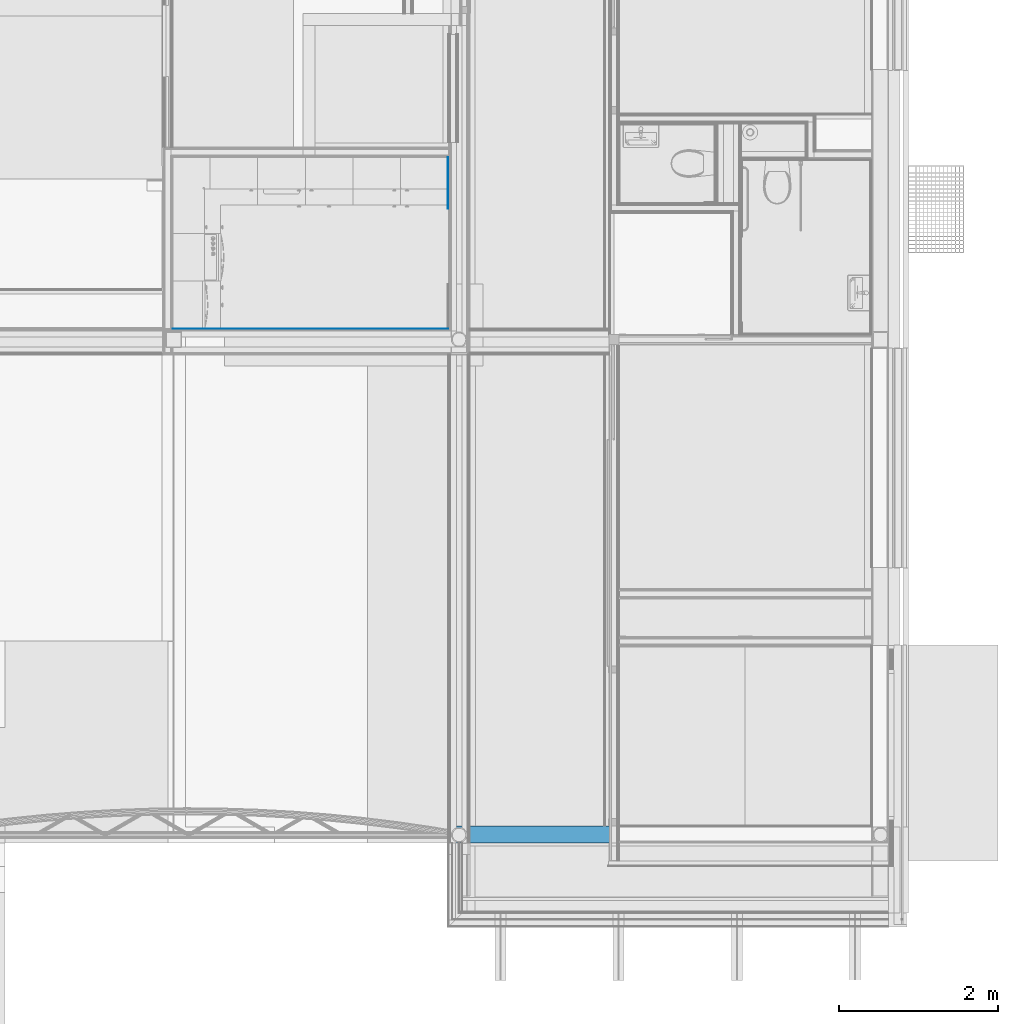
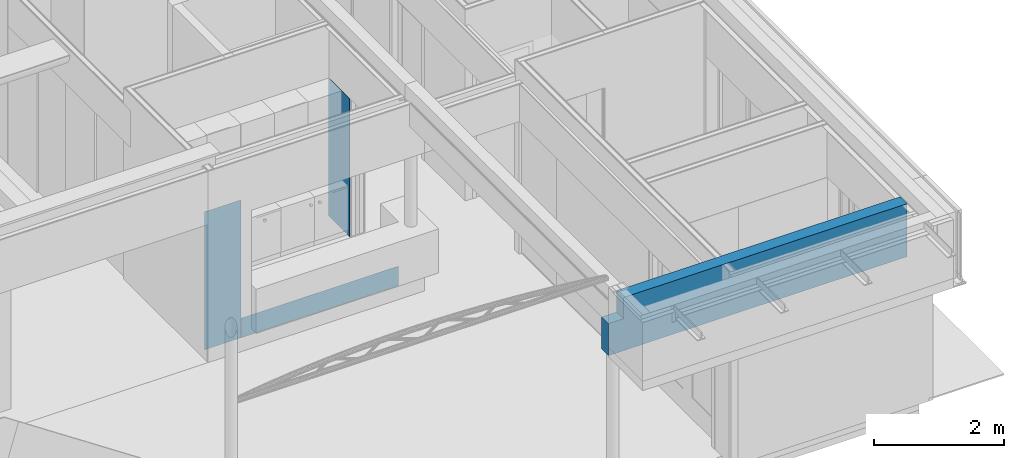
# One storey, part 24 of 165: 4 walls.
"""IFC2X3 building model written with IfcOpenShell, lengths in millimetres."""

from ifc_helpers import new_model, entity, si_unit, converted_unit, derived_unit, money_unit, direction, frame, origin_with_axes, place, context, subcontext, project, spatial, faceted_brep, material, type_object, element, save


model = new_model("IFC2X3")

# Units and contexts
model_context = context("Model", 3, precision=0.01, world=origin_with_axes(), true_north=direction((0.0, 1.0)))
body_context = subcontext(model_context, "Body", "Model", "MODEL_VIEW")
ifc_project = project(units=[si_unit("LENGTHUNIT", "METRE", prefix="MILLI"), si_unit("AREAUNIT", "SQUARE_METRE"), si_unit("VOLUMEUNIT", "CUBIC_METRE"), converted_unit("PLANEANGLEUNIT", "DEGREE", entity("IfcPlaneAngleMeasure", 0.0174532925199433), si_unit("PLANEANGLEUNIT", "RADIAN"), dimensions=[0, 0, 0, 0, 0, 0, 0]), money_unit("EUR"), converted_unit("TIMEUNIT", "Year", entity("IfcTimeMeasure", 31556926.0), si_unit("TIMEUNIT", "SECOND"), dimensions=[0, 0, 1, 0, 0, 0, 0]), si_unit("MASSUNIT", "GRAM", prefix="KILO"), si_unit("THERMODYNAMICTEMPERATUREUNIT", "DEGREE_CELSIUS"), si_unit("LUMINOUSINTENSITYUNIT", "LUMEN"), si_unit("ENERGYUNIT", "JOULE", prefix="MEGA"), derived_unit("THERMALCONDUCTANCEUNIT", [(si_unit("POWERUNIT", "WATT"), 1), (si_unit("LENGTHUNIT", "METRE"), -1), (si_unit("THERMODYNAMICTEMPERATUREUNIT", "KELVIN"), -1)]), derived_unit("SPECIFICHEATCAPACITYUNIT", [(si_unit("ENERGYUNIT", "JOULE"), 1), (si_unit("MASSUNIT", "GRAM", prefix="KILO"), -1), (si_unit("THERMODYNAMICTEMPERATUREUNIT", "KELVIN"), -1)]), derived_unit("MASSDENSITYUNIT", [(si_unit("MASSUNIT", "GRAM", prefix="KILO"), 1), (si_unit("VOLUMEUNIT", "CUBIC_METRE"), -1)])], contexts=[model_context])

# Site, building, storey
site_placement = place(None, origin_with_axes())
site = spatial("IfcSite", under=ifc_project, at=site_placement, Name="Site", CompositionType="ELEMENT")
building_placement = place(site_placement, origin_with_axes())
building = spatial("IfcBuilding", under=site, at=building_placement, Name="Naam gebouw", CompositionType="ELEMENT")
storey_placement = place(building_placement, origin_with_axes())
storey = spatial("IfcBuildingStorey", under=building, at=storey_placement, Name="Begane grond", CompositionType="ELEMENT", Elevation=0.0)

# Walls
ifc_material_1 = material(Name="ALG - LICHTE SCHEIDINGSWAND")
wall_type_1 = type_object("IfcWallType", Name="ALG - LICHTE SCHEIDINGSWAND 214", PredefinedType="NOTDEFINED")
wall_1_placement = place(storey_placement, frame((24364.99903999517, 4479.999999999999, 2600.0), z_axis=(0.0, 0.0, 1.0), x_axis=(1.0, 0.0, 0.0)))
element("IfcWall", 1, at=wall_1_placement, inside=storey, type_object=wall_type_1, material=ifc_material_1, Name="21_Wand-x", context=body_context, shape_type="Brep", body=[
    faceted_brep([(0.0, 214.0000000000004, 0.0), (0.0, 214.0000000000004, 599.9999999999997), (269.9999999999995, 214.0000000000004, 599.9999999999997), (270.0000000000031, 214.0000000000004, 999.9999952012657), (5321.000960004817, 214.0000000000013, 999.9999952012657), (5321.000960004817, 214.0000000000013, 0.0), (0.0, 0.0, 0.0), (0.0, 0.0, 599.9999999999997), (269.9999999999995, 0.0, 599.9999999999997), (270.0000000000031, 0.0, 999.9999952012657), (5321.000960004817, 0.0, 999.9999952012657), (5321.000960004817, 0.0, 0.0)], [[[0, 1, 2, 3, 4, 5]], [[0, 6, 7, 1]], [[1, 7, 8, 2]], [[2, 8, 9, 3]], [[10, 4, 3, 9]], [[4, 10, 11, 5]], [[11, 6, 0, 5]], [[10, 9, 8, 7, 6, 11]]]),
])
ifc_material_2 = material(Name="ALG - ALGEMEEN")
wall_type_2 = type_object("IfcWallType", Name="ALG - ALGEMEEN 5", PredefinedType="NOTDEFINED")
wall_2_placement = place(storey_placement, frame((24364.99907625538, 13104.99770206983, 2.0), z_axis=(0.0, 0.0, 1.0), x_axis=(0.0, -1.0, 0.0)))
element("IfcWall", 2, at=wall_2_placement, inside=storey, type_object=wall_type_2, material=ifc_material_2, Name="21_Wand-x", context=body_context, shape_type="Brep", body=[
    faceted_brep([(0.0, -4.999999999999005, 2598.0), (650.0000000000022, -4.999999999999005, 2598.0), (650.0000000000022, 0.0, 2598.0), (0.0, 0.0, 2598.0), (0.0, -4.999999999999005, 0.0), (650.0000000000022, -4.999999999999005, 0.0), (650.0000000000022, 0.0, 0.0), (0.0, 0.0, 0.0)], [[[0, 1, 2, 3]], [[4, 5, 1, 0]], [[2, 1, 5, 6]], [[3, 2, 6, 7]], [[4, 0, 3, 7]], [[7, 6, 5, 4]]]),
])
wall_type_3 = type_object("IfcWallType", Name="ALG - ALGEMEEN 1", PredefinedType="NOTDEFINED")
wall_3_placement = place(storey_placement, frame((21550.0016743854, 10945.00058782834, 0.0), z_axis=(0.0, 0.0, 1.0), x_axis=(0.9999999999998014, -6.302871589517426e-07, 0.0)))
element("IfcWall", 3, at=wall_3_placement, inside=storey, type_object=wall_type_3, material=ifc_material_2, Name="21_Wand-x", context=body_context, shape_type="Brep", body=[
    faceted_brep([(2814.997401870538, 0.9999999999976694, 0.0), (0.0, 0.9999999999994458, 0.0), (-6.314024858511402e-07, 0.9999999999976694, 370.0), (2809.997401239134, 1.001771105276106, 370.0), (2809.997401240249, 0.9999999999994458, 2.000000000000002), (2814.997401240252, 0.9999999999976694, 2.000000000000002), (2814.997401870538, 0.0, 0.0), (0.0, 0.0, 0.0), (-1.115552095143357e-09, 0.0, 370.0), (2809.997401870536, 0.0, 370.0), (2809.997401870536, 0.0, 2.000000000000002), (2814.997401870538, 0.0, 2.000000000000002)], [[[0, 1, 2, 3, 4, 5]], [[0, 6, 7, 1]], [[1, 7, 8, 2]], [[2, 8, 9, 3]], [[10, 4, 3, 9]], [[5, 4, 10, 11]], [[11, 6, 0, 5]], [[11, 10, 9, 8, 7, 6]]]),
])
wall_4_placement = place(storey_placement, frame((20900.00167438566, 10945.00099751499, 2.000000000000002), z_axis=(0.0, 0.0, 1.0), x_axis=(0.9999999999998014, -6.30287157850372e-07, 0.0)))
element("IfcWall", 4, at=wall_4_placement, inside=storey, type_object=wall_type_3, material=ifc_material_2, Name="21_Wand-x", context=body_context, shape_type="Brep", body=[
    faceted_brep([(0.0, 0.9999999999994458, 0.0), (649.9999999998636, 0.9999999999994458, 0.0), (649.9999999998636, 0.0, 0.0), (0.0, 0.0, 0.0), (0.0, 0.9999999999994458, 2598.0), (649.9999999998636, 0.9999999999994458, 2598.0), (649.9999999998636, 0.0, 2598.0), (0.0, 0.0, 2598.0)], [[[0, 1, 2, 3]], [[4, 5, 1, 0]], [[2, 1, 5, 6]], [[3, 2, 6, 7]], [[4, 0, 3, 7]], [[7, 6, 5, 4]]]),
])

save(model, "model.ifc")
